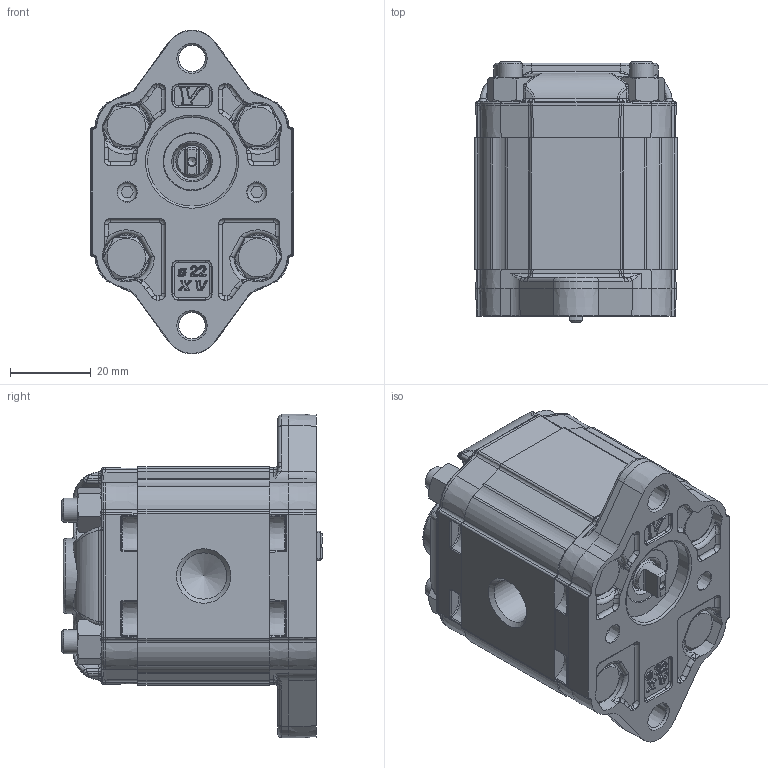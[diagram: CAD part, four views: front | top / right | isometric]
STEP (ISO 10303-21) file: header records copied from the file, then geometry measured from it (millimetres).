
FILE_DESCRIPTION(/* description */ ('Unknown'),/* implementation_level */ '2;1');
FILE_NAME(/* name */ 'X0F0522NBBA',/* time_stamp */ '2026-05-25T17:10:37+02:00',/* author */ ('Unknown'),/* organization */ ('Unknown'),/* preprocessor_version */ 'ST-DEVELOPER v16.7',/* originating_system */ 'Solid Edge',/* authorisation */ 'Unknown');
FILE_SCHEMA (('AUTOMOTIVE_DESIGN {1 0 10303 214 3 1 1}'));
Products named in the file (5): X0F0522NBBA; X0F22; 0N; X0BBH32,5; XF001-A
Assembly tree (4 placements, depth 2):
  X0F0522NBBA
    X0F22
    0N
    X0BBH32,5
    XF001-A
Bounding box: 50 x 64.3 x 79.95 mm (x, y, z)
Volume: 133938.1 mm3; surface area: 37076 mm2
Topology: 4 solids, 4 shells, 2463 faces, 6024 edges, 3557 vertices
Faces by surface type: cylinder 740, plane 610, bspline 547, cone 296, torus 192, sphere 78
Full cylindrical faces by diameter (mm): 2 x1, 6 x8, 6.01 x4, 6.5 x4, 6.518 x4, 6.545 x2, 7.16 x1, 7.5 x2, 7.92 x1, 10 x4, 11.445 x2, 13.178 x1, 14 x1, 22 x1
Entity records: 153859 total; most frequent: CARTESIAN_POINT 83629, ORIENTED_EDGE 11514, DIRECTION 10172, EDGE_CURVE 5757, AXIS2_PLACEMENT_3D 4139, VERTEX_POINT 3489, FACE_BOUND 2712, EDGE_LOOP 2709
